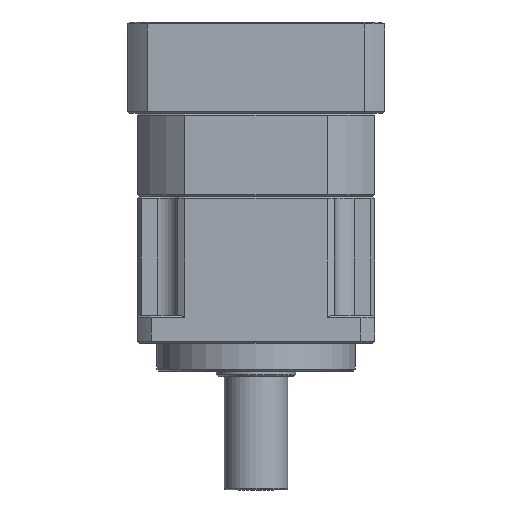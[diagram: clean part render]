
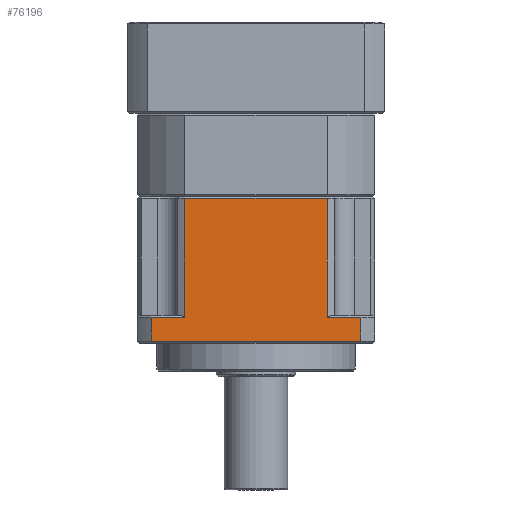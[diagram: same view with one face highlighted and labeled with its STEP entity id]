
A CAD part, front view. The second image highlights one B-rep face of the part: STEP entity #76196.
In plain terms, the highlighted planar face has unit normal (0, -1, 0).
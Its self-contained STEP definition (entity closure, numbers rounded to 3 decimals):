
#269 = FACE_OUTER_BOUND ( 'NONE', #44447, .T. ) ;
#3153 = EDGE_CURVE ( 'NONE', #104821, #75654, #65235, .T. ) ;
#3318 = LINE ( 'NONE', #110503, #95554 ) ;
#7895 = CARTESIAN_POINT ( 'NONE',  ( -46.661, -27.039, 111.002 ) ) ;
#10496 = CARTESIAN_POINT ( 'NONE',  ( 9.797, -27.039, 111.002 ) ) ;
#10662 = LINE ( 'NONE', #84809, #102861 ) ;
#11505 = LINE ( 'NONE', #111150, #59083 ) ;
#12679 = VERTEX_POINT ( 'NONE', #82438 ) ;
#19482 = DIRECTION ( 'NONE',  ( 0., 0., 1. ) ) ;
#28044 = PLANE ( 'NONE',  #66843 ) ;
#32174 = VERTEX_POINT ( 'NONE', #110125 ) ;
#32330 = CARTESIAN_POINT ( 'NONE',  ( -38.231, -27.039, 80.502 ) ) ;
#32864 = DIRECTION ( 'NONE',  ( -1., 0., 0. ) ) ;
#33955 = EDGE_CURVE ( 'NONE', #100710, #32174, #10662, .T. ) ;
#34178 = ORIENTED_EDGE ( 'NONE', *, *, #53471, .F. ) ;
#34735 = VECTOR ( 'NONE', #107638, 1000. ) ;
#41452 = DIRECTION ( 'NONE',  ( 1., 0., 0. ) ) ;
#44447 = EDGE_LOOP ( 'NONE', ( #58188, #83558, #60449, #50556, #68701, #34178, #88338, #68641 ) ) ;
#48607 = DIRECTION ( 'NONE',  ( 0., 0., 1. ) ) ;
#49772 = DIRECTION ( 'NONE',  ( 0., 0., -1. ) ) ;
#50556 = ORIENTED_EDGE ( 'NONE', *, *, #51630, .F. ) ;
#51630 = EDGE_CURVE ( 'NONE', #75654, #96515, #11505, .T. ) ;
#53471 = EDGE_CURVE ( 'NONE', #107723, #104821, #58470, .T. ) ;
#56717 = VECTOR ( 'NONE', #65723, 1000. ) ;
#56746 = CARTESIAN_POINT ( 'NONE',  ( 6.254, -27.039, 111.002 ) ) ;
#56917 = EDGE_CURVE ( 'NONE', #96515, #12679, #3318, .T. ) ;
#58188 = ORIENTED_EDGE ( 'NONE', *, *, #33955, .F. ) ;
#58470 = LINE ( 'NONE', #98712, #34735 ) ;
#59083 = VECTOR ( 'NONE', #92880, 1000. ) ;
#60073 = LINE ( 'NONE', #86662, #107417 ) ;
#60449 = ORIENTED_EDGE ( 'NONE', *, *, #56917, .F. ) ;
#65235 = LINE ( 'NONE', #7895, #112584 ) ;
#65723 = DIRECTION ( 'NONE',  ( 0., 0., -1. ) ) ;
#65940 = EDGE_CURVE ( 'NONE', #100710, #12679, #60073, .T. ) ;
#66843 = AXIS2_PLACEMENT_3D ( 'NONE', #10496, #72985, #19482 ) ;
#67510 = CARTESIAN_POINT ( 'NONE',  ( 6.254, -27.039, 80.502 ) ) ;
#68641 = ORIENTED_EDGE ( 'NONE', *, *, #83491, .F. ) ;
#68701 = ORIENTED_EDGE ( 'NONE', *, *, #3153, .F. ) ;
#70425 = DIRECTION ( 'NONE',  ( 0., 0., 1. ) ) ;
#72985 = DIRECTION ( 'NONE',  ( 0., 1., 0. ) ) ;
#75654 = VERTEX_POINT ( 'NONE', #102550 ) ;
#76196 = ADVANCED_FACE ( 'NONE', ( #269 ), #28044, .F. ) ;
#81922 = VECTOR ( 'NONE', #41452, 1000. ) ;
#82438 = CARTESIAN_POINT ( 'NONE',  ( -38.231, -27.039, 110.502 ) ) ;
#83174 = LINE ( 'NONE', #56746, #56717 ) ;
#83491 = EDGE_CURVE ( 'NONE', #32174, #96484, #105617, .T. ) ;
#83558 = ORIENTED_EDGE ( 'NONE', *, *, #65940, .T. ) ;
#84809 = CARTESIAN_POINT ( 'NONE',  ( -2.175, -27.039, 111.002 ) ) ;
#86662 = CARTESIAN_POINT ( 'NONE',  ( -50.203, -27.039, 110.502 ) ) ;
#88338 = ORIENTED_EDGE ( 'NONE', *, *, #115198, .F. ) ;
#89289 = CARTESIAN_POINT ( 'NONE',  ( -2.175, -27.039, 110.502 ) ) ;
#92880 = DIRECTION ( 'NONE',  ( 1., 0., 0. ) ) ;
#94456 = CARTESIAN_POINT ( 'NONE',  ( 9.797, -27.039, 80.502 ) ) ;
#94652 = CARTESIAN_POINT ( 'NONE',  ( 6.254, -27.039, 74.502 ) ) ;
#95554 = VECTOR ( 'NONE', #48607, 1000. ) ;
#96484 = VERTEX_POINT ( 'NONE', #67510 ) ;
#96515 = VERTEX_POINT ( 'NONE', #32330 ) ;
#98712 = CARTESIAN_POINT ( 'NONE',  ( 9.797, -27.039, 74.502 ) ) ;
#100710 = VERTEX_POINT ( 'NONE', #89289 ) ;
#102550 = CARTESIAN_POINT ( 'NONE',  ( -46.661, -27.039, 80.502 ) ) ;
#102861 = VECTOR ( 'NONE', #49772, 1000. ) ;
#104821 = VERTEX_POINT ( 'NONE', #106250 ) ;
#105617 = LINE ( 'NONE', #94456, #81922 ) ;
#106250 = CARTESIAN_POINT ( 'NONE',  ( -46.661, -27.039, 74.502 ) ) ;
#107417 = VECTOR ( 'NONE', #32864, 1000. ) ;
#107638 = DIRECTION ( 'NONE',  ( -1., 0., 0. ) ) ;
#107723 = VERTEX_POINT ( 'NONE', #94652 ) ;
#110125 = CARTESIAN_POINT ( 'NONE',  ( -2.175, -27.039, 80.502 ) ) ;
#110503 = CARTESIAN_POINT ( 'NONE',  ( -38.231, -27.039, 111.002 ) ) ;
#111150 = CARTESIAN_POINT ( 'NONE',  ( 9.797, -27.039, 80.502 ) ) ;
#112584 = VECTOR ( 'NONE', #70425, 1000. ) ;
#115198 = EDGE_CURVE ( 'NONE', #96484, #107723, #83174, .T. ) ;
